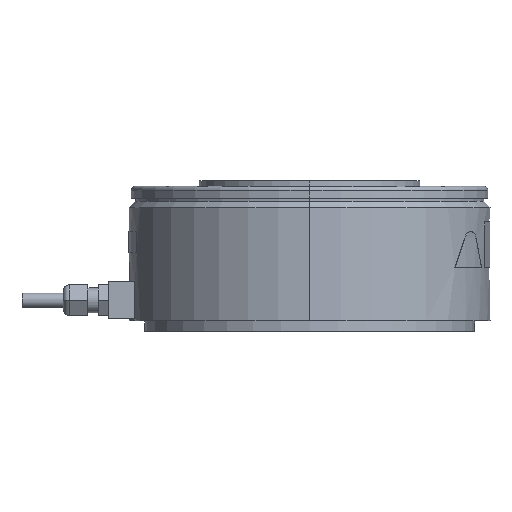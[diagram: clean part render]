
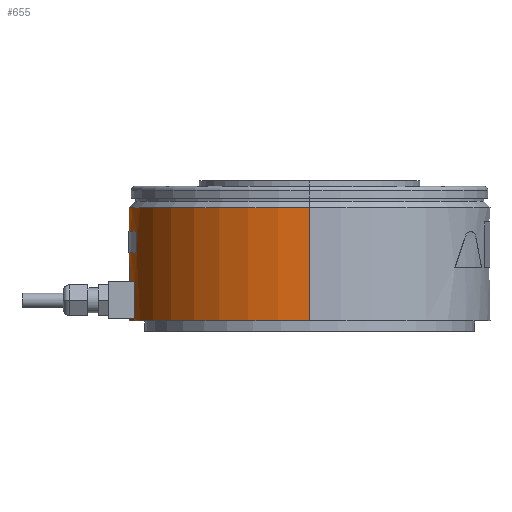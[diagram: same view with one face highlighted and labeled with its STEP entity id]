
A CAD part, left-side view. The second image highlights one B-rep face of the part: STEP entity #655.
In plain terms, the highlighted cylindrical face has radius 87.5 mm (diameter 175 mm), a partial arc.
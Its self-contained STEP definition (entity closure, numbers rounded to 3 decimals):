
#500 = VERTEX_POINT ( 'NONE', #3304 ) ;
#502 = EDGE_CURVE ( 'NONE', #556, #500, #3302, .T. ) ;
#556 = VERTEX_POINT ( 'NONE', #3441 ) ;
#572 = ORIENTED_EDGE ( 'NONE', *, *, #573, .F. ) ;
#573 = EDGE_CURVE ( 'NONE', #574, #575, #3473, .T. ) ;
#574 = VERTEX_POINT ( 'NONE', #3469 ) ;
#575 = VERTEX_POINT ( 'NONE', #3468 ) ;
#576 = ORIENTED_EDGE ( 'NONE', *, *, #577, .T. ) ;
#577 = EDGE_CURVE ( 'NONE', #574, #578, #3467, .T. ) ;
#578 = VERTEX_POINT ( 'NONE', #3462 ) ;
#579 = ORIENTED_EDGE ( 'NONE', *, *, #634, .F. ) ;
#620 = EDGE_CURVE ( 'NONE', #648, #641, #3511, .T. ) ;
#621 = EDGE_LOOP ( 'NONE', ( #622, #623, #626, #629 ) ) ;
#622 = ORIENTED_EDGE ( 'NONE', *, *, #502, .T. ) ;
#623 = ORIENTED_EDGE ( 'NONE', *, *, #624, .T. ) ;
#624 = EDGE_CURVE ( 'NONE', #500, #625, #3512, .T. ) ;
#625 = VERTEX_POINT ( 'NONE', #3566 ) ;
#626 = ORIENTED_EDGE ( 'NONE', *, *, #627, .F. ) ;
#627 = EDGE_CURVE ( 'NONE', #628, #625, #3565, .T. ) ;
#628 = VERTEX_POINT ( 'NONE', #3560 ) ;
#629 = ORIENTED_EDGE ( 'NONE', *, *, #630, .F. ) ;
#630 = EDGE_CURVE ( 'NONE', #556, #628, #3559, .T. ) ;
#634 = EDGE_CURVE ( 'NONE', #635, #578, #3548, .T. ) ;
#635 = VERTEX_POINT ( 'NONE', #3544 ) ;
#636 = ORIENTED_EDGE ( 'NONE', *, *, #637, .F. ) ;
#637 = EDGE_CURVE ( 'NONE', #575, #635, #3543, .T. ) ;
#638 = EDGE_LOOP ( 'NONE', ( #639, #643, #646, #649 ) ) ;
#639 = ORIENTED_EDGE ( 'NONE', *, *, #640, .T. ) ;
#640 = EDGE_CURVE ( 'NONE', #641, #642, #3601, .T. ) ;
#641 = VERTEX_POINT ( 'NONE', #3597 ) ;
#642 = VERTEX_POINT ( 'NONE', #3596 ) ;
#643 = ORIENTED_EDGE ( 'NONE', *, *, #644, .T. ) ;
#644 = EDGE_CURVE ( 'NONE', #642, #645, #3595, .T. ) ;
#645 = VERTEX_POINT ( 'NONE', #3590 ) ;
#646 = ORIENTED_EDGE ( 'NONE', *, *, #647, .T. ) ;
#647 = EDGE_CURVE ( 'NONE', #645, #648, #3589, .T. ) ;
#648 = VERTEX_POINT ( 'NONE', #3585 ) ;
#649 = ORIENTED_EDGE ( 'NONE', *, *, #620, .T. ) ;
#655 = ADVANCED_FACE ( 'NONE', ( #3574, #3573, #3572 ), #3570, .T. ) ;
#656 = EDGE_LOOP ( 'NONE', ( #572, #576, #579, #636 ) ) ;
#3298 = DIRECTION ( 'NONE',  ( -1., 0., 0. ) ) ;
#3299 = DIRECTION ( 'NONE',  ( 0., 0., -1. ) ) ;
#3300 = CARTESIAN_POINT ( 'NONE',  ( 0., 0., 60. ) ) ;
#3301 = AXIS2_PLACEMENT_3D ( 'NONE', #3300, #3299, #3298 ) ;
#3302 = CIRCLE ( 'NONE', #3301, 87.5 ) ;
#3304 = CARTESIAN_POINT ( 'NONE',  ( 87.5, 0., 60. ) ) ;
#3441 = CARTESIAN_POINT ( 'NONE',  ( -87.5, 0., 60. ) ) ;
#3462 = CARTESIAN_POINT ( 'NONE',  ( -21.75, 84.754, 24. ) ) ;
#3463 = DIRECTION ( 'NONE',  ( -1., 0., 0. ) ) ;
#3464 = DIRECTION ( 'NONE',  ( 0., 0., 1. ) ) ;
#3465 = CARTESIAN_POINT ( 'NONE',  ( 0., 0., 24. ) ) ;
#3466 = AXIS2_PLACEMENT_3D ( 'NONE', #3465, #3464, #3463 ) ;
#3467 = CIRCLE ( 'NONE', #3466, 87.5 ) ;
#3468 = CARTESIAN_POINT ( 'NONE',  ( 21.75, 84.754, 6. ) ) ;
#3469 = CARTESIAN_POINT ( 'NONE',  ( 21.75, 84.754, 24. ) ) ;
#3470 = DIRECTION ( 'NONE',  ( 0., 0., -1. ) ) ;
#3471 = VECTOR ( 'NONE', #3470, 1000. ) ;
#3472 = CARTESIAN_POINT ( 'NONE',  ( 21.75, 84.754, -59.236 ) ) ;
#3473 = LINE ( 'NONE', #3472, #3471 ) ;
#3507 = DIRECTION ( 'NONE',  ( 1., 0., 0. ) ) ;
#3508 = DIRECTION ( 'NONE',  ( 0., 0., -1. ) ) ;
#3509 = CARTESIAN_POINT ( 'NONE',  ( 0., 0., 38. ) ) ;
#3510 = AXIS2_PLACEMENT_3D ( 'NONE', #3509, #3508, #3507 ) ;
#3511 = CIRCLE ( 'NONE', #3510, 87.5 ) ;
#3512 = LINE ( 'NONE', #3569, #3568 ) ;
#3539 = DIRECTION ( 'NONE',  ( -1., 0., 0. ) ) ;
#3540 = DIRECTION ( 'NONE',  ( 0., 0., 1. ) ) ;
#3541 = CARTESIAN_POINT ( 'NONE',  ( 0., 0., 6. ) ) ;
#3542 = AXIS2_PLACEMENT_3D ( 'NONE', #3541, #3540, #3539 ) ;
#3543 = CIRCLE ( 'NONE', #3542, 87.5 ) ;
#3544 = CARTESIAN_POINT ( 'NONE',  ( -21.75, 84.754, 6. ) ) ;
#3545 = DIRECTION ( 'NONE',  ( 0., 0., 1. ) ) ;
#3546 = VECTOR ( 'NONE', #3545, 1000. ) ;
#3547 = CARTESIAN_POINT ( 'NONE',  ( -21.75, 84.754, -59.236 ) ) ;
#3548 = LINE ( 'NONE', #3547, #3546 ) ;
#3556 = DIRECTION ( 'NONE',  ( 0., 0., -1. ) ) ;
#3557 = VECTOR ( 'NONE', #3556, 1000. ) ;
#3558 = CARTESIAN_POINT ( 'NONE',  ( -87.5, 0., -59.236 ) ) ;
#3559 = LINE ( 'NONE', #3558, #3557 ) ;
#3560 = CARTESIAN_POINT ( 'NONE',  ( -87.5, 0., 5. ) ) ;
#3561 = DIRECTION ( 'NONE',  ( -1., 0., 0. ) ) ;
#3562 = DIRECTION ( 'NONE',  ( 0., 0., -1. ) ) ;
#3563 = CARTESIAN_POINT ( 'NONE',  ( 0., 0., 5. ) ) ;
#3564 = AXIS2_PLACEMENT_3D ( 'NONE', #3563, #3562, #3561 ) ;
#3565 = CIRCLE ( 'NONE', #3564, 87.5 ) ;
#3566 = CARTESIAN_POINT ( 'NONE',  ( 87.5, 0., 5. ) ) ;
#3567 = DIRECTION ( 'NONE',  ( 0., 0., -1. ) ) ;
#3568 = VECTOR ( 'NONE', #3567, 1000. ) ;
#3569 = CARTESIAN_POINT ( 'NONE',  ( 87.5, 0., -59.236 ) ) ;
#3570 = CYLINDRICAL_SURFACE ( 'NONE', #3571, 87.5 ) ;
#3571 = AXIS2_PLACEMENT_3D ( 'NONE', #3631, #3630, #3629 ) ;
#3572 = FACE_OUTER_BOUND ( 'NONE', #621, .T. ) ;
#3573 = FACE_BOUND ( 'NONE', #638, .T. ) ;
#3574 = FACE_BOUND ( 'NONE', #656, .T. ) ;
#3585 = CARTESIAN_POINT ( 'NONE',  ( -25., 83.853, 38. ) ) ;
#3586 = DIRECTION ( 'NONE',  ( 0., 0., -1. ) ) ;
#3587 = VECTOR ( 'NONE', #3586, 1000. ) ;
#3588 = CARTESIAN_POINT ( 'NONE',  ( -25., 83.853, -59.236 ) ) ;
#3589 = LINE ( 'NONE', #3588, #3587 ) ;
#3590 = CARTESIAN_POINT ( 'NONE',  ( -25., 83.853, 48.5 ) ) ;
#3591 = DIRECTION ( 'NONE',  ( -1., 0., 0. ) ) ;
#3592 = DIRECTION ( 'NONE',  ( 0., 0., 1. ) ) ;
#3593 = CARTESIAN_POINT ( 'NONE',  ( 0., 0., 48.5 ) ) ;
#3594 = AXIS2_PLACEMENT_3D ( 'NONE', #3593, #3592, #3591 ) ;
#3595 = CIRCLE ( 'NONE', #3594, 87.5 ) ;
#3596 = CARTESIAN_POINT ( 'NONE',  ( 25., 83.853, 48.5 ) ) ;
#3597 = CARTESIAN_POINT ( 'NONE',  ( 25., 83.853, 38. ) ) ;
#3598 = DIRECTION ( 'NONE',  ( 0., 0., 1. ) ) ;
#3599 = VECTOR ( 'NONE', #3598, 1000. ) ;
#3600 = CARTESIAN_POINT ( 'NONE',  ( 25., 83.853, -59.236 ) ) ;
#3601 = LINE ( 'NONE', #3600, #3599 ) ;
#3629 = DIRECTION ( 'NONE',  ( -1., 0., 0. ) ) ;
#3630 = DIRECTION ( 'NONE',  ( 0., 0., -1. ) ) ;
#3631 = CARTESIAN_POINT ( 'NONE',  ( 0., 0., -59.236 ) ) ;
